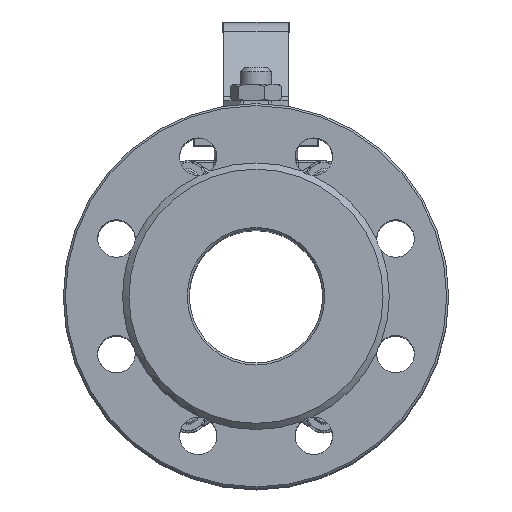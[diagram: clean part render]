
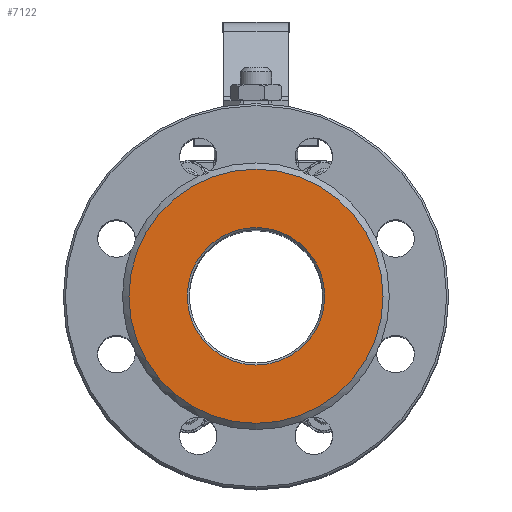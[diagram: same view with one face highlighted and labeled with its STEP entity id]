
A CAD part, top view. The second image highlights one B-rep face of the part: STEP entity #7122.
In plain terms, the highlighted planar face has unit normal (0, 0, 1).
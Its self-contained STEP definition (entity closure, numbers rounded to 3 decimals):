
#7122=ADVANCED_FACE('',(#21280,#21282),#21284,.F.);
#21280=FACE_BOUND('',#21281,.T.);
#21281=EDGE_LOOP('',(#31254));
#21282=FACE_BOUND('',#21283,.T.);
#21283=EDGE_LOOP('',(#31255));
#21284=PLANE('',#21285);
#21285=AXIS2_PLACEMENT_3D('',#21286,#21287,#21288);
#21286=CARTESIAN_POINT('',(0.,0.,145.));
#21287=DIRECTION('',(0.,0.,-1.));
#21288=DIRECTION('',(-1.,0.,0.));
#31254=ORIENTED_EDGE('',*,*,#35755,.T.);
#31255=ORIENTED_EDGE('',*,*,#35775,.F.);
#35755=EDGE_CURVE('',#42687,#42687,#42688,.T.);
#35775=EDGE_CURVE('',#42727,#42727,#42728,.T.);
#42687=VERTEX_POINT('',#89471);
#42688=CIRCLE('',#89472,61.);
#42727=VERTEX_POINT('',#90177);
#42728=CIRCLE('',#90178,33.);
#89471=CARTESIAN_POINT('',(-61.,0.,145.));
#89472=AXIS2_PLACEMENT_3D('',#89473,#89474,#89475);
#89473=CARTESIAN_POINT('',(0.,0.,145.));
#89474=DIRECTION('',(0.,0.,1.));
#89475=DIRECTION('',(-1.,0.,0.));
#90177=CARTESIAN_POINT('',(-33.,0.,145.));
#90178=AXIS2_PLACEMENT_3D('',#90179,#90180,#90181);
#90179=CARTESIAN_POINT('',(0.,0.,145.));
#90180=DIRECTION('',(0.,0.,1.));
#90181=DIRECTION('',(-1.,0.,0.));
